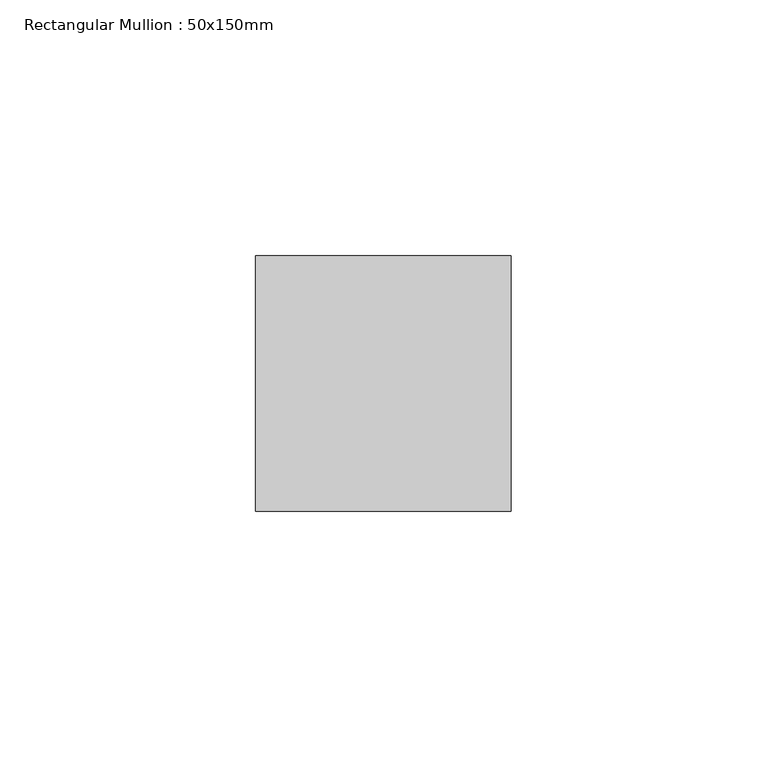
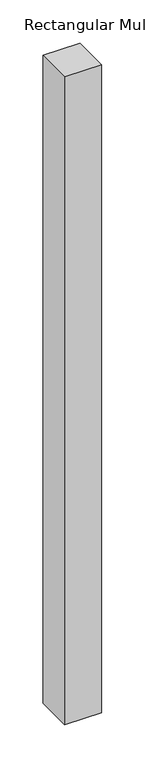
"""IFC4 building model written with IfcOpenShell, lengths in millimetres: member geometry, Rectangular Mullion : 50x150mm."""

from ifc_helpers import new_model, si_unit, frame, origin, place, context, project, spatial, polyline, outline, extrude, source, transform, mapped, element, save


def rectangular_mullion_50x150mm_60adff24(model_context):
    return source(origin(), model_context, "Body", "SweptSolid", [
        extrude(outline(polyline([(25.0, 25.0), (25.0, -25.0), (-25.0, -25.0), (-25.0, 25.0), (25.0, 25.0)])), frame((0.0, 0.0, -917.8711345), z_axis=(0.0, 0.0, 1.0), x_axis=(1.0, 0.0, 0.0)), (0.0, 0.0, 1.0), 917.8711345),
    ])


if __name__ == "__main__":
    model = new_model("IFC4")
    model_context = context("Model", 3, world=origin())
    ifc_project = project(units=[si_unit("LENGTHUNIT", "METRE", prefix="MILLI")], contexts=[model_context])
    site = spatial("IfcSite", under=ifc_project)
    building = spatial("IfcBuilding", under=site)
    placement = place(None, origin())
    rectangular_mullion_50x150mm_shape = rectangular_mullion_50x150mm_60adff24(model_context)
    element("IfcMember", 1, ObjectType="Rectangular Mullion : 50x150mm", at=placement, inside=building, context=model_context, shape_type="MappedRepresentation", body=[
        mapped(rectangular_mullion_50x150mm_shape, transform((0.0, 0.0, 0.0), x_axis=(1.0, 0.0, 0.0), y_axis=(0.0, 1.0, 0.0), z_axis=(0.0, 0.0, 1.0))),
    ])
    save(model, "model.ifc")
